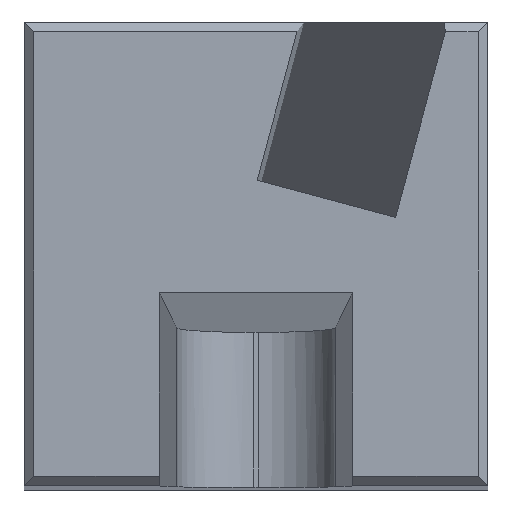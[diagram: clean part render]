
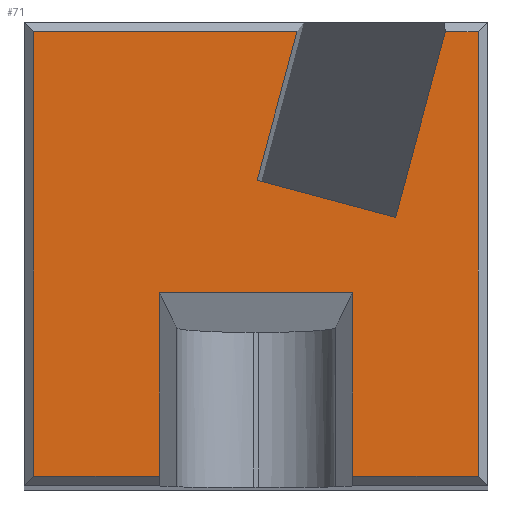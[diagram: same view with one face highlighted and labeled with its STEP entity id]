
A CAD part, top view. The second image highlights one B-rep face of the part: STEP entity #71.
In plain terms, the highlighted planar face has unit normal (0, 0, 1).
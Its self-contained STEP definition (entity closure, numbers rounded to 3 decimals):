
#10 = VECTOR ( 'NONE', #969, 1000. ) ;
#33 = AXIS2_PLACEMENT_3D ( 'NONE', #125, #279, #976 ) ;
#34 = CARTESIAN_POINT ( 'NONE',  ( 9.611, 6.946, 60. ) ) ;
#46 = DIRECTION ( 'NONE',  ( -1., 0., 0. ) ) ;
#48 = CARTESIAN_POINT ( 'NONE',  ( 11.75, 0.25, 60. ) ) ;
#52 = EDGE_CURVE ( 'NONE', #992, #903, #923, .T. ) ;
#71 = ADVANCED_FACE ( 'NONE', ( #439 ), #443, .F. ) ;
#80 = EDGE_CURVE ( 'NONE', #399, #533, #221, .T. ) ;
#85 = EDGE_CURVE ( 'NONE', #533, #162, #786, .T. ) ;
#99 = EDGE_CURVE ( 'NONE', #987, #256, #941, .T. ) ;
#111 = CARTESIAN_POINT ( 'NONE',  ( 8.5, 0., 60. ) ) ;
#125 = CARTESIAN_POINT ( 'NONE',  ( 0., 0., 60. ) ) ;
#140 = LINE ( 'NONE', #998, #177 ) ;
#152 = LINE ( 'NONE', #34, #738 ) ;
#156 = CARTESIAN_POINT ( 'NONE',  ( 6.03, 7.906, 60. ) ) ;
#162 = VERTEX_POINT ( 'NONE', #842 ) ;
#165 = ORIENTED_EDGE ( 'NONE', *, *, #433, .F. ) ;
#174 = DIRECTION ( 'NONE',  ( 0., 1., 0. ) ) ;
#177 = VECTOR ( 'NONE', #286, 1000. ) ;
#217 = LINE ( 'NONE', #617, #809 ) ;
#221 = LINE ( 'NONE', #436, #342 ) ;
#229 = ORIENTED_EDGE ( 'NONE', *, *, #735, .T. ) ;
#256 = VERTEX_POINT ( 'NONE', #721 ) ;
#259 = ORIENTED_EDGE ( 'NONE', *, *, #99, .F. ) ;
#270 = LINE ( 'NONE', #299, #648 ) ;
#279 = DIRECTION ( 'NONE',  ( 0., 0., -1. ) ) ;
#284 = LINE ( 'NONE', #723, #519 ) ;
#286 = DIRECTION ( 'NONE',  ( 0.259, 0.966, 0. ) ) ;
#292 = ORIENTED_EDGE ( 'NONE', *, *, #875, .T. ) ;
#294 = ORIENTED_EDGE ( 'NONE', *, *, #995, .F. ) ;
#299 = CARTESIAN_POINT ( 'NONE',  ( 3.5, 0., 60. ) ) ;
#309 = DIRECTION ( 'NONE',  ( -1., 0., 0. ) ) ;
#323 = CARTESIAN_POINT ( 'NONE',  ( 7.06, 11.75, 60. ) ) ;
#342 = VECTOR ( 'NONE', #736, 1000. ) ;
#361 = CARTESIAN_POINT ( 'NONE',  ( 3.5, 0.25, 60. ) ) ;
#375 = EDGE_CURVE ( 'NONE', #746, #992, #284, .T. ) ;
#386 = CARTESIAN_POINT ( 'NONE',  ( 9.611, 6.946, 60. ) ) ;
#399 = VERTEX_POINT ( 'NONE', #709 ) ;
#407 = CARTESIAN_POINT ( 'NONE',  ( 10.898, 11.75, 60. ) ) ;
#409 = VECTOR ( 'NONE', #174, 1000. ) ;
#433 = EDGE_CURVE ( 'NONE', #746, #904, #152, .T. ) ;
#435 = LINE ( 'NONE', #111, #409 ) ;
#436 = CARTESIAN_POINT ( 'NONE',  ( 0., 0.25, 60. ) ) ;
#439 = FACE_OUTER_BOUND ( 'NONE', #517, .T. ) ;
#443 = PLANE ( 'NONE',  #33 ) ;
#446 = ORIENTED_EDGE ( 'NONE', *, *, #85, .T. ) ;
#455 = ORIENTED_EDGE ( 'NONE', *, *, #80, .T. ) ;
#508 = CARTESIAN_POINT ( 'NONE',  ( 11.75, 0., 60. ) ) ;
#517 = EDGE_LOOP ( 'NONE', ( #292, #758, #259, #294, #455, #446, #855, #695, #165, #609, #586, #229 ) ) ;
#519 = VECTOR ( 'NONE', #635, 1000. ) ;
#523 = VECTOR ( 'NONE', #873, 1000. ) ;
#531 = DIRECTION ( 'NONE',  ( 0., -1., 0. ) ) ;
#533 = VERTEX_POINT ( 'NONE', #48 ) ;
#535 = CARTESIAN_POINT ( 'NONE',  ( 0.25, 11.75, 60. ) ) ;
#541 = LINE ( 'NONE', #681, #821 ) ;
#576 = VERTEX_POINT ( 'NONE', #407 ) ;
#586 = ORIENTED_EDGE ( 'NONE', *, *, #52, .T. ) ;
#592 = VECTOR ( 'NONE', #46, 1000. ) ;
#607 = EDGE_CURVE ( 'NONE', #162, #576, #797, .T. ) ;
#609 = ORIENTED_EDGE ( 'NONE', *, *, #375, .T. ) ;
#614 = DIRECTION ( 'NONE',  ( 1., 0., 0. ) ) ;
#617 = CARTESIAN_POINT ( 'NONE',  ( 0., 0.25, 60. ) ) ;
#635 = DIRECTION ( 'NONE',  ( 0.259, 0.966, 0. ) ) ;
#648 = VECTOR ( 'NONE', #531, 1000. ) ;
#670 = VERTEX_POINT ( 'NONE', #776 ) ;
#681 = CARTESIAN_POINT ( 'NONE',  ( 0.25, 0., 60. ) ) ;
#695 = ORIENTED_EDGE ( 'NONE', *, *, #803, .F. ) ;
#709 = CARTESIAN_POINT ( 'NONE',  ( 8.5, 0.25, 60. ) ) ;
#714 = EDGE_CURVE ( 'NONE', #256, #725, #270, .T. ) ;
#719 = DIRECTION ( 'NONE',  ( 0.966, -0.259, 0. ) ) ;
#721 = CARTESIAN_POINT ( 'NONE',  ( 3.5, 5., 60. ) ) ;
#723 = CARTESIAN_POINT ( 'NONE',  ( 3.649, -0.978, 60. ) ) ;
#724 = CARTESIAN_POINT ( 'NONE',  ( 3.5, 5., 60. ) ) ;
#725 = VERTEX_POINT ( 'NONE', #361 ) ;
#735 = EDGE_CURVE ( 'NONE', #903, #670, #541, .T. ) ;
#736 = DIRECTION ( 'NONE',  ( 1., 0., 0. ) ) ;
#738 = VECTOR ( 'NONE', #719, 1000. ) ;
#746 = VERTEX_POINT ( 'NONE', #156 ) ;
#758 = ORIENTED_EDGE ( 'NONE', *, *, #714, .F. ) ;
#776 = CARTESIAN_POINT ( 'NONE',  ( 0.25, 0.25, 60. ) ) ;
#786 = LINE ( 'NONE', #508, #10 ) ;
#790 = CARTESIAN_POINT ( 'NONE',  ( 8.5, 5., 60. ) ) ;
#797 = LINE ( 'NONE', #930, #884 ) ;
#803 = EDGE_CURVE ( 'NONE', #904, #576, #140, .T. ) ;
#809 = VECTOR ( 'NONE', #614, 1000. ) ;
#818 = DIRECTION ( 'NONE',  ( 0., -1., 0. ) ) ;
#821 = VECTOR ( 'NONE', #818, 1000. ) ;
#842 = CARTESIAN_POINT ( 'NONE',  ( 11.75, 11.75, 60. ) ) ;
#855 = ORIENTED_EDGE ( 'NONE', *, *, #607, .T. ) ;
#873 = DIRECTION ( 'NONE',  ( -1., 0., 0. ) ) ;
#875 = EDGE_CURVE ( 'NONE', #670, #725, #217, .T. ) ;
#884 = VECTOR ( 'NONE', #309, 1000. ) ;
#903 = VERTEX_POINT ( 'NONE', #535 ) ;
#904 = VERTEX_POINT ( 'NONE', #386 ) ;
#923 = LINE ( 'NONE', #959, #523 ) ;
#930 = CARTESIAN_POINT ( 'NONE',  ( 0., 11.75, 60. ) ) ;
#941 = LINE ( 'NONE', #724, #592 ) ;
#959 = CARTESIAN_POINT ( 'NONE',  ( 0., 11.75, 60. ) ) ;
#969 = DIRECTION ( 'NONE',  ( 0., 1., 0. ) ) ;
#976 = DIRECTION ( 'NONE',  ( -1., 0., 0. ) ) ;
#987 = VERTEX_POINT ( 'NONE', #790 ) ;
#992 = VERTEX_POINT ( 'NONE', #323 ) ;
#995 = EDGE_CURVE ( 'NONE', #399, #987, #435, .T. ) ;
#998 = CARTESIAN_POINT ( 'NONE',  ( 9.611, 6.946, 60. ) ) ;
